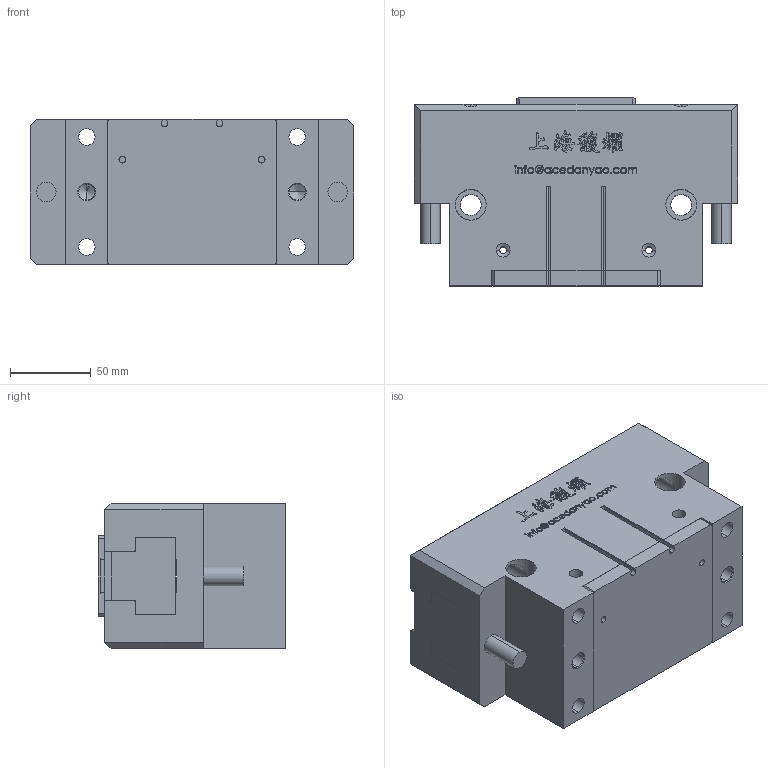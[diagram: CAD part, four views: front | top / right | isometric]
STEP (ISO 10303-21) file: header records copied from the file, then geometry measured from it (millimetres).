
FILE_DESCRIPTION (( 'STEP AP203' ), '1' );
FILE_NAME ('OPP2-200-C1-原始檔-組合-W106.04.19.STEP', '2017-04-19T05:41:27', ( 'DanyaoCAD' ), ( '' ), 'SwSTEP 2.0', 'SolidWorks 2016', '' );
FILE_SCHEMA (( 'CONFIG_CONTROL_DESIGN' ));
Length unit declared in the file: millimetre
Products named in the file (5): Griffa; Fondello; Coperchio; Corpo; OPP2-200-C1-原始檔-組合-W106.04.19
Assembly tree (5 placements, depth 2):
  OPP2-200-C1-原始檔-組合-W106.04.19
    Griffa  x2
    Fondello
    Coperchio
    Corpo
Bounding box: 200 x 116 x 90 mm (x, y, z)
Volume: 1640908.4 mm3; surface area: 224851.4 mm2
Topology: 5 solids, 5 shells, 1073 faces, 2970 edges, 1954 vertices
Faces by surface type: bspline 640, plane 289, cylinder 104, cone 40
Entity records: 50410 total; most frequent: CARTESIAN_POINT 27698, ORIENTED_EDGE 5722, EDGE_CURVE 2861, DIRECTION 2555, VERTEX_POINT 1894, LINE 1349, VECTOR 1349, B_SPLINE_CURVE_WITH_KNOTS 1304
